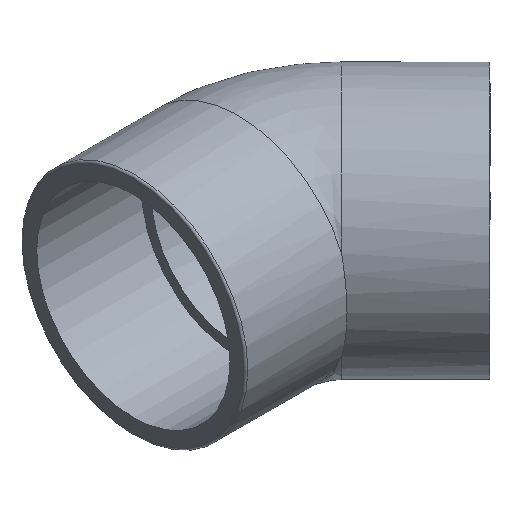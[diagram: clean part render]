
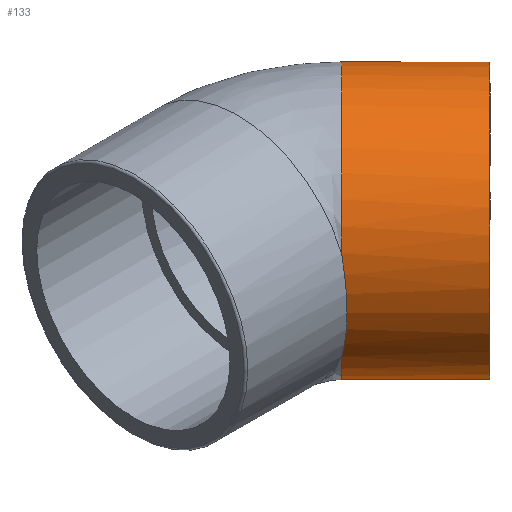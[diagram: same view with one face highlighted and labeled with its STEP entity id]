
A CAD part, isometric view. The second image highlights one B-rep face of the part: STEP entity #133.
In plain terms, the highlighted cylindrical face has radius 81.5 mm (diameter 163 mm), a full revolution.
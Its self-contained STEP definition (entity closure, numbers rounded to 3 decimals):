
#15=ELLIPSE('',#154,88.215,81.5);
#23=CYLINDRICAL_SURFACE('',#153,81.5);
#30=FACE_BOUND('',#58,.T.);
#41=FACE_OUTER_BOUND('',#57,.T.);
#57=EDGE_LOOP('',(#113,#114));
#58=EDGE_LOOP('',(#115));
#74=CIRCLE('',#152,81.5);
#75=CIRCLE('',#155,81.5);
#84=VERTEX_POINT('',#253);
#85=VERTEX_POINT('',#254);
#86=VERTEX_POINT('',#259);
#96=EDGE_CURVE('',#85,#84,#74,.T.);
#97=EDGE_CURVE('',#84,#85,#15,.T.);
#98=EDGE_CURVE('',#86,#86,#75,.T.);
#113=ORIENTED_EDGE('',*,*,#97,.F.);
#114=ORIENTED_EDGE('',*,*,#96,.F.);
#115=ORIENTED_EDGE('',*,*,#98,.T.);
#133=ADVANCED_FACE('',(#41,#30),#23,.T.);
#152=AXIS2_PLACEMENT_3D('',#256,#188,#189);
#153=AXIS2_PLACEMENT_3D('',#257,#190,#191);
#154=AXIS2_PLACEMENT_3D('',#258,#192,#193);
#155=AXIS2_PLACEMENT_3D('',#260,#194,#195);
#188=DIRECTION('center_axis',(-0.707,0.707,0.));
#189=DIRECTION('ref_axis',(0.,0.,-1.));
#190=DIRECTION('center_axis',(-0.707,0.707,0.));
#191=DIRECTION('ref_axis',(-0.707,-0.707,0.));
#192=DIRECTION('center_axis',(-0.924,0.383,0.));
#193=DIRECTION('ref_axis',(-0.383,-0.924,0.));
#194=DIRECTION('center_axis',(-0.707,0.707,0.));
#195=DIRECTION('ref_axis',(0.,0.,-1.));
#253=CARTESIAN_POINT('',(-31.,-74.841,-32.267));
#254=CARTESIAN_POINT('',(-31.,-74.841,32.267));
#256=CARTESIAN_POINT('Origin',(21.92,-21.92,0.));
#257=CARTESIAN_POINT('Origin',(48.79,-48.79,0.));
#258=CARTESIAN_POINT('Origin',(0.,0.,
0.));
#259=CARTESIAN_POINT('',(18.031,-133.29,0.));
#260=CARTESIAN_POINT('Origin',(75.66,-75.66,0.));
